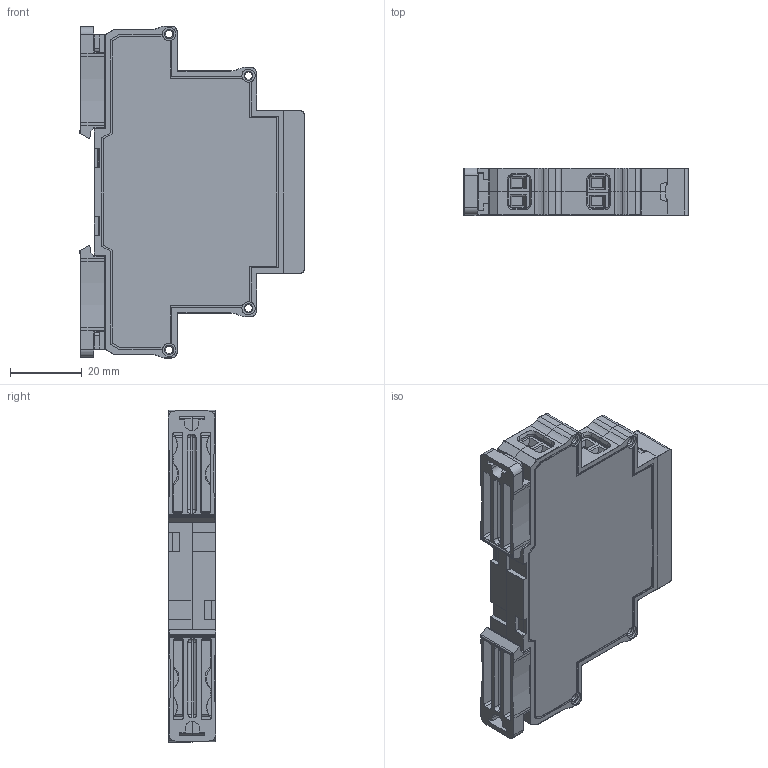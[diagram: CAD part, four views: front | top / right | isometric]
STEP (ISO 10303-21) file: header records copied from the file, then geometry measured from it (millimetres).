
FILE_DESCRIPTION(('STEP AP242'), '1');
FILE_NAME('ﾑ碚濱ﾐﾈﾎ-1ﾌ', '', ('UNSPECIFIED'), ('UNSPECIFIED'), 'C3D Converter', 'C3D Toolkit', '');
FILE_SCHEMA(('AP242_MANAGED_MODEL_BASED_3D_ENGINEERING_MIM_LF { 1 0 10303 442 1 1 4 }'));
Length unit declared in the file: millimetre
Products named in the file (12): Case_UC1-2sR-2024_SimpleModel_6mm; UC1-2sR-2024_Plug_13mm; Case13-18-23mm_2step_Lock_v01a_Build20140909_1552; Case_UC1-2sR-2025_Face_13mm
Assembly tree (16 placements, depth 3):
  (unnamed)
    Case_UC1-2sR-2024_SimpleModel_6mm  x2
    UC1-2sR-2024_Plug_13mm
    Case13-18-23mm_2step_Lock_v01a_Build20140909_1552  x2
    Case_UC1-2sR-2025_Face_13mm
    (unnamed)  x3
      (unnamed)
    (unnamed)
    (unnamed)
    (unnamed)
    (unnamed)
    (unnamed)
Bounding box: 62.53 x 13.2 x 92.4 mm (x, y, z)
Volume: 21456.9 mm3; surface area: 33548.5 mm2
Topology: 45 solids, 45 shells, 3552 faces, 9825 edges, 6364 vertices
Faces by surface type: plane 2728, cylinder 406, extrusion 206, torus 112, cone 48, sphere 32, bspline 20
Full cylindrical faces by diameter (mm): 1.238 x6, 2.1 x8, 3.7 x8, 3.9 x6
Entity records: 108727 total; most frequent: CARTESIAN_POINT 18624, ORIENTED_EDGE 14872, DIRECTION 12586, EDGE_CURVE 7436, VECTOR 6624, LINE 6418, VERTEX_POINT 4882, AXIS2_PLACEMENT_3D 2981
